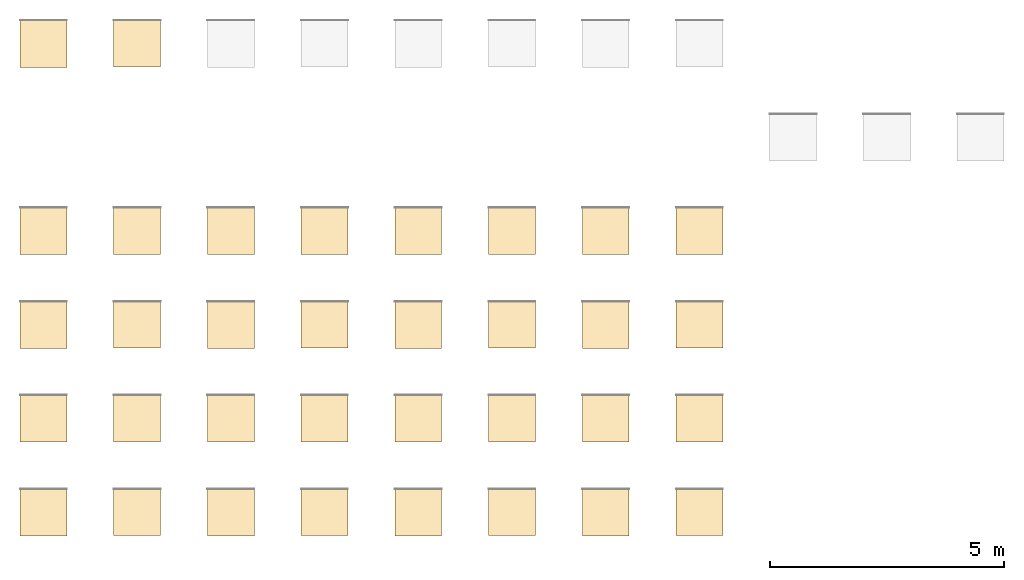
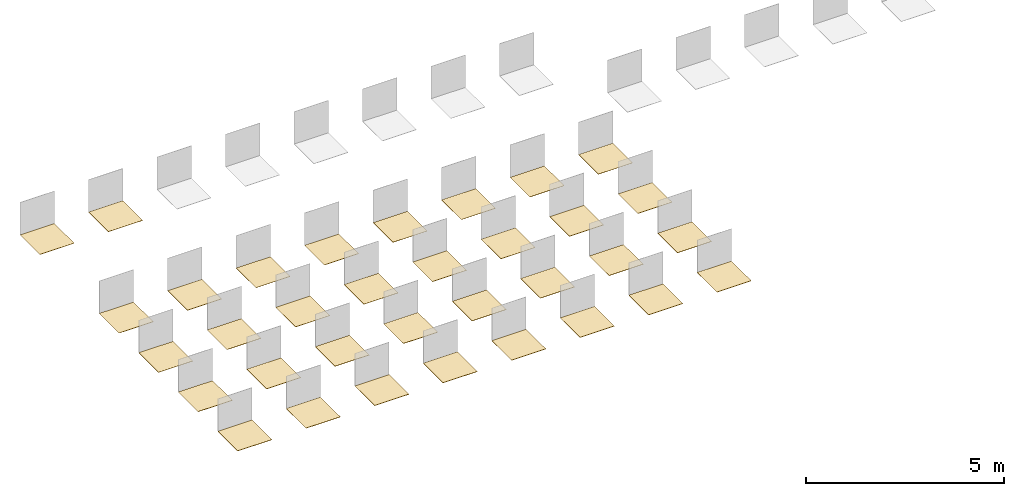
# One storey, part 3 of 4: 34 coverings.
"""IFC2X3 building model written with IfcOpenShell, lengths in millimetres."""

from ifc_helpers import new_model, entity, si_unit, converted_unit, derived_unit, direction, frame, frame_2d, origin, origin_2d_with_axis, place, context, subcontext, project, spatial, rectangle, extrude, material, layer, layer_set, layer_usage, type_object, element, save


model = new_model("IFC2X3")

# Units and contexts
model_context = context("Model", 3, precision=0.01, world=origin(), true_north=direction((6.12303176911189e-17, 1.0)))
body_context = subcontext(model_context, "Body", "Model", "MODEL_VIEW")
ifc_project = project(units=[si_unit("LENGTHUNIT", "METRE", prefix="MILLI"), si_unit("AREAUNIT", "SQUARE_METRE"), si_unit("VOLUMEUNIT", "CUBIC_METRE"), converted_unit("PLANEANGLEUNIT", "DEGREE", entity("IfcRatioMeasure", 0.0174532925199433), si_unit("PLANEANGLEUNIT", "RADIAN"), dimensions=[0, 0, 0, 0, 0, 0, 0]), si_unit("MASSUNIT", "GRAM", prefix="KILO"), derived_unit("MASSDENSITYUNIT", [(si_unit("MASSUNIT", "GRAM", prefix="KILO"), 1), (si_unit("LENGTHUNIT", "METRE"), -3)]), derived_unit("MOMENTOFINERTIAUNIT", [(si_unit("LENGTHUNIT", "METRE"), 4)]), si_unit("TIMEUNIT", "SECOND"), si_unit("FREQUENCYUNIT", "HERTZ"), si_unit("THERMODYNAMICTEMPERATUREUNIT", "DEGREE_CELSIUS"), derived_unit("THERMALTRANSMITTANCEUNIT", [(si_unit("MASSUNIT", "GRAM", prefix="KILO"), 1), (si_unit("THERMODYNAMICTEMPERATUREUNIT", "KELVIN"), -1), (si_unit("TIMEUNIT", "SECOND"), -3)]), derived_unit("VOLUMETRICFLOWRATEUNIT", [(si_unit("LENGTHUNIT", "METRE"), 3), (si_unit("TIMEUNIT", "SECOND"), -1)]), si_unit("ELECTRICCURRENTUNIT", "AMPERE"), si_unit("ELECTRICVOLTAGEUNIT", "VOLT"), si_unit("POWERUNIT", "WATT"), si_unit("FORCEUNIT", "NEWTON", prefix="KILO"), si_unit("ILLUMINANCEUNIT", "LUX"), si_unit("LUMINOUSFLUXUNIT", "LUMEN"), si_unit("LUMINOUSINTENSITYUNIT", "CANDELA"), derived_unit("USERDEFINED", [(si_unit("MASSUNIT", "GRAM", prefix="KILO"), -1), (si_unit("LENGTHUNIT", "METRE"), -2), (si_unit("TIMEUNIT", "SECOND"), 3), (si_unit("LUMINOUSFLUXUNIT", "LUMEN"), 1)]), derived_unit("LINEARVELOCITYUNIT", [(si_unit("LENGTHUNIT", "METRE"), 1), (si_unit("TIMEUNIT", "SECOND"), -1)]), si_unit("PRESSUREUNIT", "PASCAL"), derived_unit("USERDEFINED", [(si_unit("LENGTHUNIT", "METRE"), -2), (si_unit("MASSUNIT", "GRAM", prefix="KILO"), 1), (si_unit("TIMEUNIT", "SECOND"), -2)]), derived_unit("LINEARFORCEUNIT", [(si_unit("MASSUNIT", "GRAM", prefix="KILO"), 1), (si_unit("LENGTHUNIT", "METRE"), 1), (si_unit("TIMEUNIT", "SECOND"), -2), (si_unit("LENGTHUNIT", "METRE"), -1)]), derived_unit("PLANARFORCEUNIT", [(si_unit("MASSUNIT", "GRAM", prefix="KILO"), 1), (si_unit("LENGTHUNIT", "METRE"), 1), (si_unit("TIMEUNIT", "SECOND"), -2), (si_unit("LENGTHUNIT", "METRE"), -2)])], contexts=[model_context])

# Site, building, storey
site_placement = place(None, origin())
site = spatial("IfcSite", under=ifc_project, at=site_placement, Name="Default", CompositionType="ELEMENT")
building_placement = place(site_placement, origin())
building = spatial("IfcBuilding", under=site, at=building_placement, CompositionType="ELEMENT")
storey_placement = place(building_placement, origin())
storey = spatial("IfcBuildingStorey", under=building, at=storey_placement, Name="Level 1", CompositionType="ELEMENT", Elevation=0.0)

# Coverings
ifc_material_1 = material(Name="REVIGRÉS-LOCUS-BASE-10X10-SOFT GRIP-ALLOY")
ifc_layer_1 = layer(ifc_material_1, 8.5)
ifc_layer_set_1 = layer_set([ifc_layer_1], Name="Floor:REVIGRÉS-LOCUS-BASE-9.7x9.7-SOFT GRIP-ALLOY")
ifc_layer_usage_1 = layer_usage(ifc_layer_set_1, "AXIS3", "POSITIVE", 0.0)
covering_type_1 = type_object("IfcCoveringType", Name="Floor:REVIGRÉS-LOCUS-BASE-9.7x9.7-SOFT GRIP-ALLOY", PredefinedType="CLADDING", material=ifc_layer_set_1)
covering_1_placement = place(storey_placement, origin())
element("IfcCovering", 1, at=covering_1_placement, inside=storey, type_object=covering_type_1, material=ifc_layer_usage_1, Name="Floor:REVIGRÉS-LOCUS-BASE-9.7x9.7-SOFT GRIP-ALLOY", ObjectType="Floor:REVIGRÉS-LOCUS-BASE-9.7x9.7-SOFT GRIP-ALLOY", PredefinedType="CLADDING", context=body_context, shape_type="SweptSolid", body=[
    extrude(rectangle(XDim=1000.0, YDim=1000.0, at=origin_2d_with_axis()), frame((4448.64271399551, 2608.0757973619, 0.0), z_axis=(0.0, 0.0, -1.0), x_axis=(0.0, 1.0, 0.0)), (0.0, 0.0, 1.0), 8.5),
])
ifc_material_2 = material(Name="REVIGRÉS-LOCUS-BASE-10X10-SILK-ALLOY")
ifc_layer_2 = layer(ifc_material_2, 8.5)
ifc_layer_set_2 = layer_set([ifc_layer_2], Name="Floor:REVIGRÉS-LOCUS-BASE-9.7x9.7-SILK-ALLOY")
ifc_layer_usage_2 = layer_usage(ifc_layer_set_2, "AXIS3", "POSITIVE", 0.0)
covering_type_2 = type_object("IfcCoveringType", Name="Floor:REVIGRÉS-LOCUS-BASE-9.7x9.7-SILK-ALLOY", PredefinedType="CLADDING", material=ifc_layer_set_2)
covering_2_placement = place(storey_placement, origin())
element("IfcCovering", 2, at=covering_2_placement, inside=storey, type_object=covering_type_2, material=ifc_layer_usage_2, Name="Floor:REVIGRÉS-LOCUS-BASE-9.7x9.7-SILK-ALLOY", ObjectType="Floor:REVIGRÉS-LOCUS-BASE-9.7x9.7-SILK-ALLOY", PredefinedType="CLADDING", context=body_context, shape_type="SweptSolid", body=[
    extrude(rectangle(XDim=1000.0, YDim=1000.0, at=frame_2d((0.0, 1.4210854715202e-13), x_axis=(1.0, 0.0))), frame((2448.64271399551, 2603.82579736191, 0.0), z_axis=(0.0, 0.0, -1.0), x_axis=(0.0, 1.0, 0.0)), (0.0, 0.0, 1.0), 8.5),
])
ifc_material_3 = material(Name="REVIGRÉS-LOCUS-BASE-30x60-SOFT GRIP-ALLOY")
ifc_layer_3 = layer(ifc_material_3, 8.5)
ifc_layer_set_3 = layer_set([ifc_layer_3], Name="Floor:REVIGRÉS-LOCUS-BASE-29.5x59.2-SOFT GRIP-ALLOY")
ifc_layer_usage_3 = layer_usage(ifc_layer_set_3, "AXIS3", "POSITIVE", 0.0)
covering_type_3 = type_object("IfcCoveringType", Name="Floor:REVIGRÉS-LOCUS-BASE-29.5x59.2-SOFT GRIP-ALLOY", PredefinedType="CLADDING", material=ifc_layer_set_3)
covering_3_placement = place(storey_placement, origin())
element("IfcCovering", 3, at=covering_3_placement, inside=storey, type_object=covering_type_3, material=ifc_layer_usage_3, Name="Floor:REVIGRÉS-LOCUS-BASE-29.5x59.2-SOFT GRIP-ALLOY", ObjectType="Floor:REVIGRÉS-LOCUS-BASE-29.5x59.2-SOFT GRIP-ALLOY", PredefinedType="CLADDING", context=body_context, shape_type="SweptSolid", body=[
    extrude(rectangle(XDim=1000.0, YDim=1000.0, at=origin_2d_with_axis()), frame((4448.64271399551, -1391.9242026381, 0.0), z_axis=(0.0, 0.0, -1.0), x_axis=(0.0, 1.0, 0.0)), (0.0, 0.0, 1.0), 8.5),
])
ifc_material_4 = material(Name="REVIGRÉS-LOCUS-BASE-30x60-SILK-ALLOY")
ifc_layer_4 = layer(ifc_material_4, 8.5)
ifc_layer_set_4 = layer_set([ifc_layer_4], Name="Floor:REVIGRÉS-LOCUS-BASE-29.5x59.2-SILK-ALLOY")
ifc_layer_usage_4 = layer_usage(ifc_layer_set_4, "AXIS3", "POSITIVE", 0.0)
covering_type_4 = type_object("IfcCoveringType", Name="Floor:REVIGRÉS-LOCUS-BASE-29.5x59.2-SILK-ALLOY", PredefinedType="CLADDING", material=ifc_layer_set_4)
covering_4_placement = place(storey_placement, origin())
element("IfcCovering", 4, at=covering_4_placement, inside=storey, type_object=covering_type_4, material=ifc_layer_usage_4, Name="Floor:REVIGRÉS-LOCUS-BASE-29.5x59.2-SILK-ALLOY", ObjectType="Floor:REVIGRÉS-LOCUS-BASE-29.5x59.2-SILK-ALLOY", PredefinedType="CLADDING", context=body_context, shape_type="SweptSolid", body=[
    extrude(rectangle(XDim=1000.0, YDim=1000.0, at=frame_2d((0.0, 1.4210854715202e-13), x_axis=(1.0, 0.0))), frame((2448.64271399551, -1396.17420263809, 0.0), z_axis=(0.0, 0.0, -1.0), x_axis=(0.0, 1.0, 0.0)), (0.0, 0.0, 1.0), 8.5),
])
ifc_material_5 = material(Name="REVIGRÉS-LOCUS-BASE-60x60-SOFT GRIP-ALLOY")
ifc_layer_5 = layer(ifc_material_5, 8.5)
ifc_layer_set_5 = layer_set([ifc_layer_5], Name="Floor:REVIGRÉS-LOCUS-BASE-59.2x59.2-SOFT GRIP-ALLOY")
ifc_layer_usage_5 = layer_usage(ifc_layer_set_5, "AXIS3", "POSITIVE", 0.0)
covering_type_5 = type_object("IfcCoveringType", Name="Floor:REVIGRÉS-LOCUS-BASE-59.2x59.2-SOFT GRIP-ALLOY", PredefinedType="CLADDING", material=ifc_layer_set_5)
covering_5_placement = place(storey_placement, origin())
element("IfcCovering", 5, at=covering_5_placement, inside=storey, type_object=covering_type_5, material=ifc_layer_usage_5, Name="Floor:REVIGRÉS-LOCUS-BASE-59.2x59.2-SOFT GRIP-ALLOY", ObjectType="Floor:REVIGRÉS-LOCUS-BASE-59.2x59.2-SOFT GRIP-ALLOY", PredefinedType="CLADDING", context=body_context, shape_type="SweptSolid", body=[
    extrude(rectangle(XDim=1000.0, YDim=1000.0, at=origin_2d_with_axis()), frame((4448.6427139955, -3391.9242026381, 0.0), z_axis=(0.0, 0.0, -1.0), x_axis=(0.0, 1.0, 0.0)), (0.0, 0.0, 1.0), 8.5),
])
ifc_material_6 = material(Name="REVIGRÉS-LOCUS-BASE-60x60-SILK-ALLOY")
ifc_layer_6 = layer(ifc_material_6, 8.5)
ifc_layer_set_6 = layer_set([ifc_layer_6], Name="Floor:REVIGRÉS-LOCUS-BASE-59.2x59.2-SILK-ALLOY")
ifc_layer_usage_6 = layer_usage(ifc_layer_set_6, "AXIS3", "POSITIVE", 0.0)
covering_type_6 = type_object("IfcCoveringType", Name="Floor:REVIGRÉS-LOCUS-BASE-59.2x59.2-SILK-ALLOY", PredefinedType="CLADDING", material=ifc_layer_set_6)
covering_6_placement = place(storey_placement, origin())
element("IfcCovering", 6, at=covering_6_placement, inside=storey, type_object=covering_type_6, material=ifc_layer_usage_6, Name="Floor:REVIGRÉS-LOCUS-BASE-59.2x59.2-SILK-ALLOY", ObjectType="Floor:REVIGRÉS-LOCUS-BASE-59.2x59.2-SILK-ALLOY", PredefinedType="CLADDING", context=body_context, shape_type="SweptSolid", body=[
    extrude(rectangle(XDim=1000.0, YDim=1000.0, at=frame_2d((0.0, 1.4210854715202e-13), x_axis=(1.0, 0.0))), frame((2448.6427139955, -3396.17420263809, 0.0), z_axis=(0.0, 0.0, -1.0), x_axis=(0.0, 1.0, 0.0)), (0.0, 0.0, 1.0), 8.5),
])
ifc_material_7 = material(Name="REVIGRÉS-LOCUS-BASE-45X90-SOFT GRIP-ALLOY")
ifc_layer_7 = layer(ifc_material_7, 10.5)
ifc_layer_set_7 = layer_set([ifc_layer_7], Name="Floor:REVIGRÉS-LOCUS-BASE-44.35x88.9-SOFT GRIP-ALLOY")
ifc_layer_usage_7 = layer_usage(ifc_layer_set_7, "AXIS3", "POSITIVE", 0.0)
covering_type_7 = type_object("IfcCoveringType", Name="Floor:REVIGRÉS-LOCUS-BASE-44.35x88.9-SOFT GRIP-ALLOY", PredefinedType="CLADDING", material=ifc_layer_set_7)
covering_7_placement = place(storey_placement, origin())
element("IfcCovering", 7, at=covering_7_placement, inside=storey, type_object=covering_type_7, material=ifc_layer_usage_7, Name="Floor:REVIGRÉS-LOCUS-BASE-44.35x88.9-SOFT GRIP-ALLOY", ObjectType="Floor:REVIGRÉS-LOCUS-BASE-44.35x88.9-SOFT GRIP-ALLOY", PredefinedType="CLADDING", context=body_context, shape_type="SweptSolid", body=[
    extrude(rectangle(XDim=1000.0, YDim=1000.0, at=origin_2d_with_axis()), frame((4448.6427139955, -5391.9242026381, 0.0), z_axis=(0.0, 0.0, -1.0), x_axis=(0.0, 1.0, 0.0)), (0.0, 0.0, 1.0), 10.5),
])
ifc_material_8 = material(Name="REVIGRÉS-LOCUS-BASE-45X90-SILK-ALLOY")
ifc_layer_8 = layer(ifc_material_8, 10.5)
ifc_layer_set_8 = layer_set([ifc_layer_8], Name="Floor:REVIGRÉS-LOCUS-BASE-44.35x88.9-SILK-ALLOY")
ifc_layer_usage_8 = layer_usage(ifc_layer_set_8, "AXIS3", "POSITIVE", 0.0)
covering_type_8 = type_object("IfcCoveringType", Name="Floor:REVIGRÉS-LOCUS-BASE-44.35x88.9-SILK-ALLOY", PredefinedType="CLADDING", material=ifc_layer_set_8)
covering_8_placement = place(storey_placement, origin())
element("IfcCovering", 8, at=covering_8_placement, inside=storey, type_object=covering_type_8, material=ifc_layer_usage_8, Name="Floor:REVIGRÉS-LOCUS-BASE-44.35x88.9-SILK-ALLOY", ObjectType="Floor:REVIGRÉS-LOCUS-BASE-44.35x88.9-SILK-ALLOY", PredefinedType="CLADDING", context=body_context, shape_type="SweptSolid", body=[
    extrude(rectangle(XDim=998.999999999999, YDim=1000.0, at=frame_2d((-5.40012479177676e-13, 1.4210854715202e-13), x_axis=(1.0, 0.0))), frame((2448.6427139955, -5396.67420263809, 0.0), z_axis=(0.0, 0.0, -1.0), x_axis=(0.0, 1.0, 0.0)), (0.0, 0.0, 1.0), 10.5),
])
ifc_material_9 = material(Name="REVIGRÉS-LOCUS-BASE-30x60-SOFT GRIP-BONE")
ifc_layer_9 = layer(ifc_material_9, 8.5)
ifc_layer_set_9 = layer_set([ifc_layer_9], Name="Floor:REVIGRÉS-LOCUS-BASE-29.5x59.20-SOFT GRIP-BONE")
ifc_layer_usage_9 = layer_usage(ifc_layer_set_9, "AXIS3", "POSITIVE", 0.0)
covering_type_9 = type_object("IfcCoveringType", Name="Floor:REVIGRÉS-LOCUS-BASE-29.5x59.20-SOFT GRIP-BONE", PredefinedType="CLADDING", material=ifc_layer_set_9)
covering_9_placement = place(storey_placement, origin())
element("IfcCovering", 9, at=covering_9_placement, inside=storey, type_object=covering_type_9, material=ifc_layer_usage_9, Name="Floor:REVIGRÉS-LOCUS-BASE-29.5x59.20-SOFT GRIP-BONE", ObjectType="Floor:REVIGRÉS-LOCUS-BASE-29.5x59.20-SOFT GRIP-BONE", PredefinedType="CLADDING", context=body_context, shape_type="SweptSolid", body=[
    extrude(rectangle(XDim=1000.0, YDim=1000.0, at=origin_2d_with_axis()), frame((8448.6427139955, -1391.92420263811, 0.0), z_axis=(0.0, 0.0, -1.0), x_axis=(0.0, 1.0, 0.0)), (0.0, 0.0, 1.0), 8.5),
])
ifc_material_10 = material(Name="REVIGRÉS-LOCUS-BASE-30x60-SILK-BONE")
ifc_layer_10 = layer(ifc_material_10, 8.5)
ifc_layer_set_10 = layer_set([ifc_layer_10], Name="Floor:REVIGRÉS-LOCUS-BASE-29.5x59.2-SILK-BONE")
ifc_layer_usage_10 = layer_usage(ifc_layer_set_10, "AXIS3", "POSITIVE", 0.0)
covering_type_10 = type_object("IfcCoveringType", Name="Floor:REVIGRÉS-LOCUS-BASE-29.5x59.2-SILK-BONE", PredefinedType="CLADDING", material=ifc_layer_set_10)
covering_10_placement = place(storey_placement, origin())
element("IfcCovering", 10, at=covering_10_placement, inside=storey, type_object=covering_type_10, material=ifc_layer_usage_10, Name="Floor:REVIGRÉS-LOCUS-BASE-29.5x59.2-SILK-BONE", ObjectType="Floor:REVIGRÉS-LOCUS-BASE-29.5x59.2-SILK-BONE", PredefinedType="CLADDING", context=body_context, shape_type="SweptSolid", body=[
    extrude(rectangle(XDim=1000.0, YDim=1000.0, at=origin_2d_with_axis()), frame((6448.6427139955, -1396.1742026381, 0.0), z_axis=(0.0, 0.0, -1.0), x_axis=(0.0, 1.0, 0.0)), (0.0, 0.0, 1.0), 8.5),
])
ifc_material_11 = material(Name="REVIGRÉS-LOCUS-BASE-60x60-SOFT GRIP-BONE")
ifc_layer_11 = layer(ifc_material_11, 8.5)
ifc_layer_set_11 = layer_set([ifc_layer_11], Name="Floor:REVIGRÉS-LOCUS-BASE-59.2x59.2-SOFT GRIP-BONE")
ifc_layer_usage_11 = layer_usage(ifc_layer_set_11, "AXIS3", "POSITIVE", 0.0)
covering_type_11 = type_object("IfcCoveringType", Name="Floor:REVIGRÉS-LOCUS-BASE-59.2x59.2-SOFT GRIP-BONE", PredefinedType="CLADDING", material=ifc_layer_set_11)
covering_11_placement = place(storey_placement, origin())
element("IfcCovering", 11, at=covering_11_placement, inside=storey, type_object=covering_type_11, material=ifc_layer_usage_11, Name="Floor:REVIGRÉS-LOCUS-BASE-59.2x59.2-SOFT GRIP-BONE", ObjectType="Floor:REVIGRÉS-LOCUS-BASE-59.2x59.2-SOFT GRIP-BONE", PredefinedType="CLADDING", context=body_context, shape_type="SweptSolid", body=[
    extrude(rectangle(XDim=1000.0, YDim=1000.0, at=origin_2d_with_axis()), frame((8448.6427139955, -3391.92420263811, 0.0), z_axis=(0.0, 0.0, -1.0), x_axis=(0.0, 1.0, 0.0)), (0.0, 0.0, 1.0), 8.5),
])
ifc_material_12 = material(Name="REVIGRÉS-LOCUS-BASE-60x60-SILK-BONE")
ifc_layer_12 = layer(ifc_material_12, 8.5)
ifc_layer_set_12 = layer_set([ifc_layer_12], Name="Floor:REVIGRÉS-LOCUS-BASE-59.2x59.2-SILK-BONE")
ifc_layer_usage_12 = layer_usage(ifc_layer_set_12, "AXIS3", "POSITIVE", 0.0)
covering_type_12 = type_object("IfcCoveringType", Name="Floor:REVIGRÉS-LOCUS-BASE-59.2x59.2-SILK-BONE", PredefinedType="CLADDING", material=ifc_layer_set_12)
covering_12_placement = place(storey_placement, origin())
element("IfcCovering", 12, at=covering_12_placement, inside=storey, type_object=covering_type_12, material=ifc_layer_usage_12, Name="Floor:REVIGRÉS-LOCUS-BASE-59.2x59.2-SILK-BONE", ObjectType="Floor:REVIGRÉS-LOCUS-BASE-59.2x59.2-SILK-BONE", PredefinedType="CLADDING", context=body_context, shape_type="SweptSolid", body=[
    extrude(rectangle(XDim=1000.0, YDim=1000.0, at=origin_2d_with_axis()), frame((6448.6427139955, -3396.1742026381, 0.0), z_axis=(0.0, 0.0, -1.0), x_axis=(0.0, 1.0, 0.0)), (0.0, 0.0, 1.0), 8.5),
])
ifc_material_13 = material(Name="REVIGRÉS-LOCUS-BASE-45X90-SOFT GRIP-BONE")
ifc_layer_13 = layer(ifc_material_13, 10.5)
ifc_layer_set_13 = layer_set([ifc_layer_13], Name="Floor:REVIGRÉS-LOCUS-BASE-44.35x88.9-SOFT GRIP-BONE")
ifc_layer_usage_13 = layer_usage(ifc_layer_set_13, "AXIS3", "POSITIVE", 0.0)
covering_type_13 = type_object("IfcCoveringType", Name="Floor:REVIGRÉS-LOCUS-BASE-44.35x88.9-SOFT GRIP-BONE", PredefinedType="CLADDING", material=ifc_layer_set_13)
covering_13_placement = place(storey_placement, origin())
element("IfcCovering", 13, at=covering_13_placement, inside=storey, type_object=covering_type_13, material=ifc_layer_usage_13, Name="Floor:REVIGRÉS-LOCUS-BASE-44.35x88.9-SOFT GRIP-BONE", ObjectType="Floor:REVIGRÉS-LOCUS-BASE-44.35x88.9-SOFT GRIP-BONE", PredefinedType="CLADDING", context=body_context, shape_type="SweptSolid", body=[
    extrude(rectangle(XDim=1000.0, YDim=1000.0, at=origin_2d_with_axis()), frame((8448.6427139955, -5391.92420263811, 0.0), z_axis=(0.0, 0.0, -1.0), x_axis=(0.0, 1.0, 0.0)), (0.0, 0.0, 1.0), 10.5),
])
ifc_material_14 = material(Name="REVIGRÉS-LOCUS-BASE-45X90-SILK-BONE")
ifc_layer_14 = layer(ifc_material_14, 10.5)
ifc_layer_set_14 = layer_set([ifc_layer_14], Name="Floor:REVIGRÉS-LOCUS-BASE-44.35x88.9-SILK-BONE")
ifc_layer_usage_14 = layer_usage(ifc_layer_set_14, "AXIS3", "POSITIVE", 0.0)
covering_type_14 = type_object("IfcCoveringType", Name="Floor:REVIGRÉS-LOCUS-BASE-44.35x88.9-SILK-BONE", PredefinedType="CLADDING", material=ifc_layer_set_14)
covering_14_placement = place(storey_placement, origin())
element("IfcCovering", 14, at=covering_14_placement, inside=storey, type_object=covering_type_14, material=ifc_layer_usage_14, Name="Floor:REVIGRÉS-LOCUS-BASE-44.35x88.9-SILK-BONE", ObjectType="Floor:REVIGRÉS-LOCUS-BASE-44.35x88.9-SILK-BONE", PredefinedType="CLADDING", context=body_context, shape_type="SweptSolid", body=[
    extrude(rectangle(XDim=998.999999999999, YDim=1000.0, at=frame_2d((-5.40012479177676e-13, 0.0), x_axis=(1.0, 0.0))), frame((6448.64271399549, -5396.6742026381, 0.0), z_axis=(0.0, 0.0, -1.0), x_axis=(0.0, 1.0, 0.0)), (0.0, 0.0, 1.0), 10.5),
])
ifc_material_15 = material(Name="REVIGRÉS-LOCUS-BASE-30x60-SOFT GRIP-GRIS")
ifc_layer_15 = layer(ifc_material_15, 8.5)
ifc_layer_set_15 = layer_set([ifc_layer_15], Name="Floor:REVIGRÉS-LOCUS-BASE-29.5x59.20-SOFT GRIP-GRIS")
ifc_layer_usage_15 = layer_usage(ifc_layer_set_15, "AXIS3", "POSITIVE", 0.0)
covering_type_15 = type_object("IfcCoveringType", Name="Floor:REVIGRÉS-LOCUS-BASE-29.5x59.20-SOFT GRIP-GRIS", PredefinedType="CLADDING", material=ifc_layer_set_15)
covering_15_placement = place(storey_placement, origin())
element("IfcCovering", 15, at=covering_15_placement, inside=storey, type_object=covering_type_15, material=ifc_layer_usage_15, Name="Floor:REVIGRÉS-LOCUS-BASE-29.5x59.20-SOFT GRIP-GRIS", ObjectType="Floor:REVIGRÉS-LOCUS-BASE-29.5x59.20-SOFT GRIP-GRIS", PredefinedType="CLADDING", context=body_context, shape_type="SweptSolid", body=[
    extrude(rectangle(XDim=1000.0, YDim=1000.0, at=frame_2d((0.0, -1.08002495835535e-12), x_axis=(1.0, 0.0))), frame((12448.6427139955, -1391.92420263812, 0.0), z_axis=(0.0, 0.0, -1.0), x_axis=(0.0, 1.0, 0.0)), (0.0, 0.0, 1.0), 8.5),
])
ifc_material_16 = material(Name="REVIGRÉS-LOCUS-BASE-30x60-SILK-GRIS")
ifc_layer_16 = layer(ifc_material_16, 8.5)
ifc_layer_set_16 = layer_set([ifc_layer_16], Name="Floor:REVIGRÉS-LOCUS-BASE-29.5x59.2-SILK-GRIS")
ifc_layer_usage_16 = layer_usage(ifc_layer_set_16, "AXIS3", "POSITIVE", 0.0)
covering_type_16 = type_object("IfcCoveringType", Name="Floor:REVIGRÉS-LOCUS-BASE-29.5x59.2-SILK-GRIS", PredefinedType="CLADDING", material=ifc_layer_set_16)
covering_16_placement = place(storey_placement, origin())
element("IfcCovering", 16, at=covering_16_placement, inside=storey, type_object=covering_type_16, material=ifc_layer_usage_16, Name="Floor:REVIGRÉS-LOCUS-BASE-29.5x59.2-SILK-GRIS", ObjectType="Floor:REVIGRÉS-LOCUS-BASE-29.5x59.2-SILK-GRIS", PredefinedType="CLADDING", context=body_context, shape_type="SweptSolid", body=[
    extrude(rectangle(XDim=1000.0, YDim=999.999999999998, at=origin_2d_with_axis()), frame((10448.6427139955, -1396.17420263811, 0.0), z_axis=(0.0, 0.0, -1.0), x_axis=(0.0, 1.0, 0.0)), (0.0, 0.0, 1.0), 8.5),
])
ifc_material_17 = material(Name="REVIGRÉS-LOCUS-BASE-60x60-SOFT GRIP-GRIS")
ifc_layer_17 = layer(ifc_material_17, 8.5)
ifc_layer_set_17 = layer_set([ifc_layer_17], Name="Floor:REVIGRÉS-LOCUS-BASE-59.2x59.2-SOFT GRIP-GRIS")
ifc_layer_usage_17 = layer_usage(ifc_layer_set_17, "AXIS3", "POSITIVE", 0.0)
covering_type_17 = type_object("IfcCoveringType", Name="Floor:REVIGRÉS-LOCUS-BASE-59.2x59.2-SOFT GRIP-GRIS", PredefinedType="CLADDING", material=ifc_layer_set_17)
covering_17_placement = place(storey_placement, origin())
element("IfcCovering", 17, at=covering_17_placement, inside=storey, type_object=covering_type_17, material=ifc_layer_usage_17, Name="Floor:REVIGRÉS-LOCUS-BASE-59.2x59.2-SOFT GRIP-GRIS", ObjectType="Floor:REVIGRÉS-LOCUS-BASE-59.2x59.2-SOFT GRIP-GRIS", PredefinedType="CLADDING", context=body_context, shape_type="SweptSolid", body=[
    extrude(rectangle(XDim=1000.0, YDim=1000.0, at=origin_2d_with_axis()), frame((12448.6427139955, -3391.92420263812, 0.0), z_axis=(0.0, 0.0, -1.0), x_axis=(0.0, 1.0, 0.0)), (0.0, 0.0, 1.0), 8.5),
])
ifc_material_18 = material(Name="REVIGRÉS-LOCUS-BASE-60x60-SILK-GRIS")
ifc_layer_18 = layer(ifc_material_18, 8.5)
ifc_layer_set_18 = layer_set([ifc_layer_18], Name="Floor:REVIGRÉS-LOCUS-BASE-59.2x59.2-SILK-GRIS")
ifc_layer_usage_18 = layer_usage(ifc_layer_set_18, "AXIS3", "POSITIVE", 0.0)
covering_type_18 = type_object("IfcCoveringType", Name="Floor:REVIGRÉS-LOCUS-BASE-59.2x59.2-SILK-GRIS", PredefinedType="CLADDING", material=ifc_layer_set_18)
covering_18_placement = place(storey_placement, origin())
element("IfcCovering", 18, at=covering_18_placement, inside=storey, type_object=covering_type_18, material=ifc_layer_usage_18, Name="Floor:REVIGRÉS-LOCUS-BASE-59.2x59.2-SILK-GRIS", ObjectType="Floor:REVIGRÉS-LOCUS-BASE-59.2x59.2-SILK-GRIS", PredefinedType="CLADDING", context=body_context, shape_type="SweptSolid", body=[
    extrude(rectangle(XDim=1000.0, YDim=999.999999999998, at=origin_2d_with_axis()), frame((10448.6427139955, -3396.17420263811, 0.0), z_axis=(0.0, 0.0, -1.0), x_axis=(0.0, 1.0, 0.0)), (0.0, 0.0, 1.0), 8.5),
])
ifc_material_19 = material(Name="REVIGRÉS-LOCUS-BASE-45X90-SOFT GRIP-GRIS")
ifc_layer_19 = layer(ifc_material_19, 10.5)
ifc_layer_set_19 = layer_set([ifc_layer_19], Name="Floor:REVIGRÉS-LOCUS-BASE-44.35x88.9-SOFT GRIP-GRIS")
ifc_layer_usage_19 = layer_usage(ifc_layer_set_19, "AXIS3", "POSITIVE", 0.0)
covering_type_19 = type_object("IfcCoveringType", Name="Floor:REVIGRÉS-LOCUS-BASE-44.35x88.9-SOFT GRIP-GRIS", PredefinedType="CLADDING", material=ifc_layer_set_19)
covering_19_placement = place(storey_placement, origin())
element("IfcCovering", 19, at=covering_19_placement, inside=storey, type_object=covering_type_19, material=ifc_layer_usage_19, Name="Floor:REVIGRÉS-LOCUS-BASE-44.35x88.9-SOFT GRIP-GRIS", ObjectType="Floor:REVIGRÉS-LOCUS-BASE-44.35x88.9-SOFT GRIP-GRIS", PredefinedType="CLADDING", context=body_context, shape_type="SweptSolid", body=[
    extrude(rectangle(XDim=1000.0, YDim=1000.0, at=frame_2d((0.0, -1.08002495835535e-12), x_axis=(1.0, 0.0))), frame((12448.6427139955, -5391.92420263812, 0.0), z_axis=(0.0, 0.0, -1.0), x_axis=(0.0, 1.0, 0.0)), (0.0, 0.0, 1.0), 10.5),
])
ifc_material_20 = material(Name="REVIGRÉS-LOCUS-BASE-45X90-SILK-GRIS")
ifc_layer_20 = layer(ifc_material_20, 10.5)
ifc_layer_set_20 = layer_set([ifc_layer_20], Name="Floor:REVIGRÉS-LOCUS-BASE-44.35x88.9-SILK-GRIS")
ifc_layer_usage_20 = layer_usage(ifc_layer_set_20, "AXIS3", "POSITIVE", 0.0)
covering_type_20 = type_object("IfcCoveringType", Name="Floor:REVIGRÉS-LOCUS-BASE-44.35x88.9-SILK-GRIS", PredefinedType="CLADDING", material=ifc_layer_set_20)
covering_20_placement = place(storey_placement, origin())
element("IfcCovering", 20, at=covering_20_placement, inside=storey, type_object=covering_type_20, material=ifc_layer_usage_20, Name="Floor:REVIGRÉS-LOCUS-BASE-44.35x88.9-SILK-GRIS", ObjectType="Floor:REVIGRÉS-LOCUS-BASE-44.35x88.9-SILK-GRIS", PredefinedType="CLADDING", context=body_context, shape_type="SweptSolid", body=[
    extrude(rectangle(XDim=998.999999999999, YDim=999.999999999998, at=frame_2d((-5.40012479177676e-13, 0.0), x_axis=(1.0, 0.0))), frame((10448.6427139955, -5396.67420263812, 0.0), z_axis=(0.0, 0.0, -1.0), x_axis=(0.0, 1.0, 0.0)), (0.0, 0.0, 1.0), 10.5),
])
ifc_material_21 = material(Name="REVIGRÉS-LOCUS-BASE-30x60-SOFT GRIP-SMOG")
ifc_layer_21 = layer(ifc_material_21, 8.5)
ifc_layer_set_21 = layer_set([ifc_layer_21], Name="Floor:REVIGRÉS-LOCUS-BASE-29.5x59.2-SOFT GRIP-SMOG")
ifc_layer_usage_21 = layer_usage(ifc_layer_set_21, "AXIS3", "POSITIVE", 0.0)
covering_type_21 = type_object("IfcCoveringType", Name="Floor:REVIGRÉS-LOCUS-BASE-29.5x59.2-SOFT GRIP-SMOG", PredefinedType="CLADDING", material=ifc_layer_set_21)
covering_21_placement = place(storey_placement, origin())
element("IfcCovering", 21, at=covering_21_placement, inside=storey, type_object=covering_type_21, material=ifc_layer_usage_21, Name="Floor:REVIGRÉS-LOCUS-BASE-29.5x59.2-SOFT GRIP-SMOG", ObjectType="Floor:REVIGRÉS-LOCUS-BASE-29.5x59.2-SOFT GRIP-SMOG", PredefinedType="CLADDING", context=body_context, shape_type="SweptSolid", body=[
    extrude(rectangle(XDim=1000.0, YDim=999.999999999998, at=origin_2d_with_axis()), frame((16448.6427139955, -1391.92420263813, 0.0), z_axis=(0.0, 0.0, -1.0), x_axis=(0.0, 1.0, 0.0)), (0.0, 0.0, 1.0), 8.5),
])
ifc_material_22 = material(Name="REVIGRÉS-LOCUS-BASE-30x60-SILK-SMOG")
ifc_layer_22 = layer(ifc_material_22, 8.5)
ifc_layer_set_22 = layer_set([ifc_layer_22], Name="Floor:REVIGRÉS-LOCUS-BASE-29.5x59.2-SILK-SMOG")
ifc_layer_usage_22 = layer_usage(ifc_layer_set_22, "AXIS3", "POSITIVE", 0.0)
covering_type_22 = type_object("IfcCoveringType", Name="Floor:REVIGRÉS-LOCUS-BASE-29.5x59.2-SILK-SMOG", PredefinedType="CLADDING", material=ifc_layer_set_22)
covering_22_placement = place(storey_placement, origin())
element("IfcCovering", 22, at=covering_22_placement, inside=storey, type_object=covering_type_22, material=ifc_layer_usage_22, Name="Floor:REVIGRÉS-LOCUS-BASE-29.5x59.2-SILK-SMOG", ObjectType="Floor:REVIGRÉS-LOCUS-BASE-29.5x59.2-SILK-SMOG", PredefinedType="CLADDING", context=body_context, shape_type="SweptSolid", body=[
    extrude(rectangle(XDim=1000.0, YDim=1000.0, at=frame_2d((0.0, -1.08002495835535e-12), x_axis=(1.0, 0.0))), frame((14448.6427139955, -1396.17420263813, 0.0), z_axis=(0.0, 0.0, -1.0), x_axis=(0.0, 1.0, 0.0)), (0.0, 0.0, 1.0), 8.5),
])
ifc_material_23 = material(Name="REVIGRÉS-LOCUS-BASE-60x60-SOFT GRIP-SMOG")
ifc_layer_23 = layer(ifc_material_23, 8.5)
ifc_layer_set_23 = layer_set([ifc_layer_23], Name="Floor:REVIGRÉS-LOCUS-BASE-59.2x59.2-SOFT GRIP-SMOG")
ifc_layer_usage_23 = layer_usage(ifc_layer_set_23, "AXIS3", "POSITIVE", 0.0)
covering_type_23 = type_object("IfcCoveringType", Name="Floor:REVIGRÉS-LOCUS-BASE-59.2x59.2-SOFT GRIP-SMOG", PredefinedType="CLADDING", material=ifc_layer_set_23)
covering_23_placement = place(storey_placement, origin())
element("IfcCovering", 23, at=covering_23_placement, inside=storey, type_object=covering_type_23, material=ifc_layer_usage_23, Name="Floor:REVIGRÉS-LOCUS-BASE-59.2x59.2-SOFT GRIP-SMOG", ObjectType="Floor:REVIGRÉS-LOCUS-BASE-59.2x59.2-SOFT GRIP-SMOG", PredefinedType="CLADDING", context=body_context, shape_type="SweptSolid", body=[
    extrude(rectangle(XDim=1000.0, YDim=1000.0, at=frame_2d((0.0, 2.1600499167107e-12), x_axis=(1.0, 0.0))), frame((16448.6427139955, -3391.92420263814, 0.0), z_axis=(0.0, 0.0, -1.0), x_axis=(0.0, 1.0, 0.0)), (0.0, 0.0, 1.0), 8.5),
])
ifc_material_24 = material(Name="REVIGRÉS-LOCUS-BASE-60x60-SILK-SMOG")
ifc_layer_24 = layer(ifc_material_24, 8.5)
ifc_layer_set_24 = layer_set([ifc_layer_24], Name="Floor:REVIGRÉS-LOCUS-BASE-59.2x59.2-SILK-SMOG")
ifc_layer_usage_24 = layer_usage(ifc_layer_set_24, "AXIS3", "POSITIVE", 0.0)
covering_type_24 = type_object("IfcCoveringType", Name="Floor:REVIGRÉS-LOCUS-BASE-59.2x59.2-SILK-SMOG", PredefinedType="CLADDING", material=ifc_layer_set_24)
covering_24_placement = place(storey_placement, origin())
element("IfcCovering", 24, at=covering_24_placement, inside=storey, type_object=covering_type_24, material=ifc_layer_usage_24, Name="Floor:REVIGRÉS-LOCUS-BASE-59.2x59.2-SILK-SMOG", ObjectType="Floor:REVIGRÉS-LOCUS-BASE-59.2x59.2-SILK-SMOG", PredefinedType="CLADDING", context=body_context, shape_type="SweptSolid", body=[
    extrude(rectangle(XDim=1000.0, YDim=999.999999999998, at=origin_2d_with_axis()), frame((14448.6427139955, -3396.17420263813, 0.0), z_axis=(0.0, 0.0, -1.0), x_axis=(0.0, 1.0, 0.0)), (0.0, 0.0, 1.0), 8.5),
])
ifc_material_25 = material(Name="REVIGRÉS-LOCUS-BASE-45X90-SOFT GRIP-SMOG")
ifc_layer_25 = layer(ifc_material_25, 10.5)
ifc_layer_set_25 = layer_set([ifc_layer_25], Name="Floor:REVIGRÉS-LOCUS-BASE-44.35x88.9-SOFT GRIP-SMOG")
ifc_layer_usage_25 = layer_usage(ifc_layer_set_25, "AXIS3", "POSITIVE", 0.0)
covering_type_25 = type_object("IfcCoveringType", Name="Floor:REVIGRÉS-LOCUS-BASE-44.35x88.9-SOFT GRIP-SMOG", PredefinedType="CLADDING", material=ifc_layer_set_25)
covering_25_placement = place(storey_placement, origin())
element("IfcCovering", 25, at=covering_25_placement, inside=storey, type_object=covering_type_25, material=ifc_layer_usage_25, Name="Floor:REVIGRÉS-LOCUS-BASE-44.35x88.9-SOFT GRIP-SMOG", ObjectType="Floor:REVIGRÉS-LOCUS-BASE-44.35x88.9-SOFT GRIP-SMOG", PredefinedType="CLADDING", context=body_context, shape_type="SweptSolid", body=[
    extrude(rectangle(XDim=1000.0, YDim=999.999999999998, at=origin_2d_with_axis()), frame((16448.6427139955, -5391.92420263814, 0.0), z_axis=(0.0, 0.0, -1.0), x_axis=(0.0, 1.0, 0.0)), (0.0, 0.0, 1.0), 10.5),
])
ifc_material_26 = material(Name="REVIGRÉS-LOCUS-BASE-45X90-SILK-SMOG")
ifc_layer_26 = layer(ifc_material_26, 10.5)
ifc_layer_set_26 = layer_set([ifc_layer_26], Name="Floor:REVIGRÉS-LOCUS-BASE-44.35x88.9-SILK-SMOG")
ifc_layer_usage_26 = layer_usage(ifc_layer_set_26, "AXIS3", "POSITIVE", 0.0)
covering_type_26 = type_object("IfcCoveringType", Name="Floor:REVIGRÉS-LOCUS-BASE-44.35x88.9-SILK-SMOG", PredefinedType="CLADDING", material=ifc_layer_set_26)
covering_26_placement = place(storey_placement, origin())
element("IfcCovering", 26, at=covering_26_placement, inside=storey, type_object=covering_type_26, material=ifc_layer_usage_26, Name="Floor:REVIGRÉS-LOCUS-BASE-44.35x88.9-SILK-SMOG", ObjectType="Floor:REVIGRÉS-LOCUS-BASE-44.35x88.9-SILK-SMOG", PredefinedType="CLADDING", context=body_context, shape_type="SweptSolid", body=[
    extrude(rectangle(XDim=998.999999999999, YDim=1000.0, at=frame_2d((-5.40012479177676e-13, 1.08002495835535e-12), x_axis=(1.0, 0.0))), frame((14448.6427139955, -5396.67420263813, 0.0), z_axis=(0.0, 0.0, -1.0), x_axis=(0.0, 1.0, 0.0)), (0.0, 0.0, 1.0), 10.5),
])
ifc_material_27 = material(Name="REVIGRÉS-LOCUS-BASE-90x90-SOFT GRIP-ALLOY")
ifc_layer_27 = layer(ifc_material_27, 10.5)
ifc_layer_set_27 = layer_set([ifc_layer_27], Name="Floor:REVIGRÉS-LOCUS-BASE-88.9x88.90-SOFT GRIP-ALLOY")
ifc_layer_usage_27 = layer_usage(ifc_layer_set_27, "AXIS3", "POSITIVE", 0.0)
covering_type_27 = type_object("IfcCoveringType", Name="Floor:REVIGRÉS-LOCUS-BASE-88.9x88.90-SOFT GRIP-ALLOY", PredefinedType="CLADDING", material=ifc_layer_set_27)
covering_27_placement = place(storey_placement, origin())
element("IfcCovering", 27, at=covering_27_placement, inside=storey, type_object=covering_type_27, material=ifc_layer_usage_27, Name="Floor:REVIGRÉS-LOCUS-BASE-88.9x88.90-SOFT GRIP-ALLOY", ObjectType="Floor:REVIGRÉS-LOCUS-BASE-88.9x88.90-SOFT GRIP-ALLOY", PredefinedType="CLADDING", context=body_context, shape_type="SweptSolid", body=[
    extrude(rectangle(XDim=1000.0, YDim=1000.0, at=origin_2d_with_axis()), frame((4448.6427139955, -7391.9242026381, 0.0), z_axis=(0.0, 0.0, -1.0), x_axis=(0.0, 1.0, 0.0)), (0.0, 0.0, 1.0), 10.5),
])
ifc_material_28 = material(Name="REVIGRÉS-LOCUS-BASE-90x90-SILK-ALLOY")
ifc_layer_28 = layer(ifc_material_28, 10.5)
ifc_layer_set_28 = layer_set([ifc_layer_28], Name="Floor:REVIGRÉS-LOCUS-BASE-88.9x88.9-SILK-ALLOY")
ifc_layer_usage_28 = layer_usage(ifc_layer_set_28, "AXIS3", "POSITIVE", 0.0)
covering_type_28 = type_object("IfcCoveringType", Name="Floor:REVIGRÉS-LOCUS-BASE-88.9x88.9-SILK-ALLOY", PredefinedType="CLADDING", material=ifc_layer_set_28)
covering_28_placement = place(storey_placement, origin())
element("IfcCovering", 28, at=covering_28_placement, inside=storey, type_object=covering_type_28, material=ifc_layer_usage_28, Name="Floor:REVIGRÉS-LOCUS-BASE-88.9x88.9-SILK-ALLOY", ObjectType="Floor:REVIGRÉS-LOCUS-BASE-88.9x88.9-SILK-ALLOY", PredefinedType="CLADDING", context=body_context, shape_type="SweptSolid", body=[
    extrude(rectangle(XDim=999.65, YDim=1000.0, at=frame_2d((0.0, 1.4210854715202e-13), x_axis=(1.0, 0.0))), frame((2448.6427139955, -7396.99920263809, 0.0), z_axis=(0.0, 0.0, -1.0), x_axis=(0.0, 1.0, 0.0)), (0.0, 0.0, 1.0), 10.5),
])
ifc_material_29 = material(Name="REVIGRÉS-LOCUS-BASE-90x90-SOFT GRIP-BONE")
ifc_layer_29 = layer(ifc_material_29, 10.5)
ifc_layer_set_29 = layer_set([ifc_layer_29], Name="Floor:REVIGRÉS-LOCUS-BASE-88.9x88.9-SOFT GRIP-BONE")
ifc_layer_usage_29 = layer_usage(ifc_layer_set_29, "AXIS3", "POSITIVE", 0.0)
covering_type_29 = type_object("IfcCoveringType", Name="Floor:REVIGRÉS-LOCUS-BASE-88.9x88.9-SOFT GRIP-BONE", PredefinedType="CLADDING", material=ifc_layer_set_29)
covering_29_placement = place(storey_placement, origin())
element("IfcCovering", 29, at=covering_29_placement, inside=storey, type_object=covering_type_29, material=ifc_layer_usage_29, Name="Floor:REVIGRÉS-LOCUS-BASE-88.9x88.9-SOFT GRIP-BONE", ObjectType="Floor:REVIGRÉS-LOCUS-BASE-88.9x88.9-SOFT GRIP-BONE", PredefinedType="CLADDING", context=body_context, shape_type="SweptSolid", body=[
    extrude(rectangle(XDim=1000.0, YDim=999.999999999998, at=origin_2d_with_axis()), frame((8448.64271399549, -7391.92420263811, 0.0), z_axis=(0.0, 0.0, -1.0), x_axis=(0.0, 1.0, 0.0)), (0.0, 0.0, 1.0), 10.5),
])
ifc_material_30 = material(Name="REVIGRÉS-LOCUS-BASE-90x90-SILK-BONE")
ifc_layer_30 = layer(ifc_material_30, 10.5)
ifc_layer_set_30 = layer_set([ifc_layer_30], Name="Floor:REVIGRÉS-LOCUS-BASE-88.9x88.9-SILK-BONE")
ifc_layer_usage_30 = layer_usage(ifc_layer_set_30, "AXIS3", "POSITIVE", 0.0)
covering_type_30 = type_object("IfcCoveringType", Name="Floor:REVIGRÉS-LOCUS-BASE-88.9x88.9-SILK-BONE", PredefinedType="CLADDING", material=ifc_layer_set_30)
covering_30_placement = place(storey_placement, origin())
element("IfcCovering", 30, at=covering_30_placement, inside=storey, type_object=covering_type_30, material=ifc_layer_usage_30, Name="Floor:REVIGRÉS-LOCUS-BASE-88.9x88.9-SILK-BONE", ObjectType="Floor:REVIGRÉS-LOCUS-BASE-88.9x88.9-SILK-BONE", PredefinedType="CLADDING", context=body_context, shape_type="SweptSolid", body=[
    extrude(rectangle(XDim=999.65, YDim=1000.0, at=origin_2d_with_axis()), frame((6448.64271399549, -7396.9992026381, 0.0), z_axis=(0.0, 0.0, -1.0), x_axis=(0.0, 1.0, 0.0)), (0.0, 0.0, 1.0), 10.5),
])
ifc_material_31 = material(Name="REVIGRÉS-LOCUS-BASE-90x90-SOFT GRIP-GRIS")
ifc_layer_31 = layer(ifc_material_31, 10.5)
ifc_layer_set_31 = layer_set([ifc_layer_31], Name="Floor:REVIGRÉS-LOCUS-BASE-88.9x88.90-SOFT GRIP-GRIS")
ifc_layer_usage_31 = layer_usage(ifc_layer_set_31, "AXIS3", "POSITIVE", 0.0)
covering_type_31 = type_object("IfcCoveringType", Name="Floor:REVIGRÉS-LOCUS-BASE-88.9x88.90-SOFT GRIP-GRIS", PredefinedType="CLADDING", material=ifc_layer_set_31)
covering_31_placement = place(storey_placement, origin())
element("IfcCovering", 31, at=covering_31_placement, inside=storey, type_object=covering_type_31, material=ifc_layer_usage_31, Name="Floor:REVIGRÉS-LOCUS-BASE-88.9x88.90-SOFT GRIP-GRIS", ObjectType="Floor:REVIGRÉS-LOCUS-BASE-88.9x88.90-SOFT GRIP-GRIS", PredefinedType="CLADDING", context=body_context, shape_type="SweptSolid", body=[
    extrude(rectangle(XDim=1000.0, YDim=999.999999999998, at=origin_2d_with_axis()), frame((12448.6427139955, -7391.92420263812, 0.0), z_axis=(0.0, 0.0, -1.0), x_axis=(0.0, 1.0, 0.0)), (0.0, 0.0, 1.0), 10.5),
])
ifc_material_32 = material(Name="REVIGRÉS-LOCUS-BASE-90x90-SILK-GRIS")
ifc_layer_32 = layer(ifc_material_32, 10.5)
ifc_layer_set_32 = layer_set([ifc_layer_32], Name="Floor:REVIGRÉS-LOCUS-BASE-88.9x88.9-SILK-GRIS")
ifc_layer_usage_32 = layer_usage(ifc_layer_set_32, "AXIS3", "POSITIVE", 0.0)
covering_type_32 = type_object("IfcCoveringType", Name="Floor:REVIGRÉS-LOCUS-BASE-88.9x88.9-SILK-GRIS", PredefinedType="CLADDING", material=ifc_layer_set_32)
covering_32_placement = place(storey_placement, origin())
element("IfcCovering", 32, at=covering_32_placement, inside=storey, type_object=covering_type_32, material=ifc_layer_usage_32, Name="Floor:REVIGRÉS-LOCUS-BASE-88.9x88.9-SILK-GRIS", ObjectType="Floor:REVIGRÉS-LOCUS-BASE-88.9x88.9-SILK-GRIS", PredefinedType="CLADDING", context=body_context, shape_type="SweptSolid", body=[
    extrude(rectangle(XDim=999.65, YDim=999.999999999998, at=origin_2d_with_axis()), frame((10448.6427139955, -7396.99920263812, 0.0), z_axis=(0.0, 0.0, -1.0), x_axis=(0.0, 1.0, 0.0)), (0.0, 0.0, 1.0), 10.5),
])
ifc_material_33 = material(Name="REVIGRÉS-LOCUS-BASE-90x90-SOFT GRIP-SMOG")
ifc_layer_33 = layer(ifc_material_33, 10.5)
ifc_layer_set_33 = layer_set([ifc_layer_33], Name="Floor:REVIGRÉS-LOCUS-BASE-88.9x88.9-SOFT GRIP-SMOG")
ifc_layer_usage_33 = layer_usage(ifc_layer_set_33, "AXIS3", "POSITIVE", 0.0)
covering_type_33 = type_object("IfcCoveringType", Name="Floor:REVIGRÉS-LOCUS-BASE-88.9x88.9-SOFT GRIP-SMOG", PredefinedType="CLADDING", material=ifc_layer_set_33)
covering_33_placement = place(storey_placement, origin())
element("IfcCovering", 33, at=covering_33_placement, inside=storey, type_object=covering_type_33, material=ifc_layer_usage_33, Name="Floor:REVIGRÉS-LOCUS-BASE-88.9x88.9-SOFT GRIP-SMOG", ObjectType="Floor:REVIGRÉS-LOCUS-BASE-88.9x88.9-SOFT GRIP-SMOG", PredefinedType="CLADDING", context=body_context, shape_type="SweptSolid", body=[
    extrude(rectangle(XDim=1000.0, YDim=999.999999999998, at=origin_2d_with_axis()), frame((16448.6427139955, -7391.92420263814, 0.0), z_axis=(0.0, 0.0, -1.0), x_axis=(0.0, 1.0, 0.0)), (0.0, 0.0, 1.0), 10.5),
])
ifc_material_34 = material(Name="REVIGRÉS-LOCUS-BASE-90x90-SILK-SMOG")
ifc_layer_34 = layer(ifc_material_34, 10.5)
ifc_layer_set_34 = layer_set([ifc_layer_34], Name="Floor:REVIGRÉS-LOCUS-BASE-88.9x88.9-SILK-SMOG")
ifc_layer_usage_34 = layer_usage(ifc_layer_set_34, "AXIS3", "POSITIVE", 0.0)
covering_type_34 = type_object("IfcCoveringType", Name="Floor:REVIGRÉS-LOCUS-BASE-88.9x88.9-SILK-SMOG", PredefinedType="CLADDING", material=ifc_layer_set_34)
covering_34_placement = place(storey_placement, origin())
element("IfcCovering", 34, at=covering_34_placement, inside=storey, type_object=covering_type_34, material=ifc_layer_usage_34, Name="Floor:REVIGRÉS-LOCUS-BASE-88.9x88.9-SILK-SMOG", ObjectType="Floor:REVIGRÉS-LOCUS-BASE-88.9x88.9-SILK-SMOG", PredefinedType="CLADDING", context=body_context, shape_type="SweptSolid", body=[
    extrude(rectangle(XDim=999.65, YDim=1000.0, at=frame_2d((0.0, 1.08002495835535e-12), x_axis=(1.0, 0.0))), frame((14448.6427139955, -7396.99920263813, 0.0), z_axis=(0.0, 0.0, -1.0), x_axis=(0.0, 1.0, 0.0)), (0.0, 0.0, 1.0), 10.5),
])

save(model, "model.ifc")
